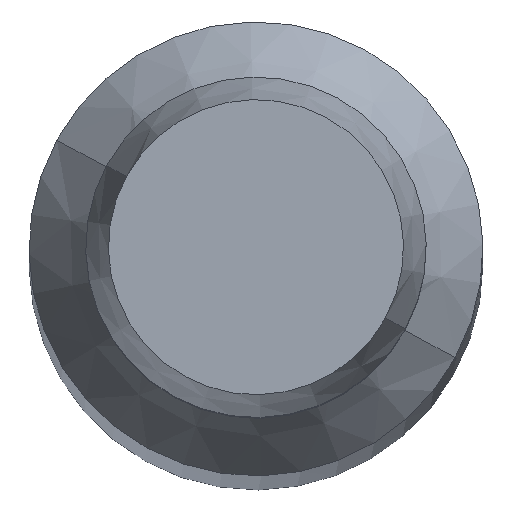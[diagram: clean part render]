
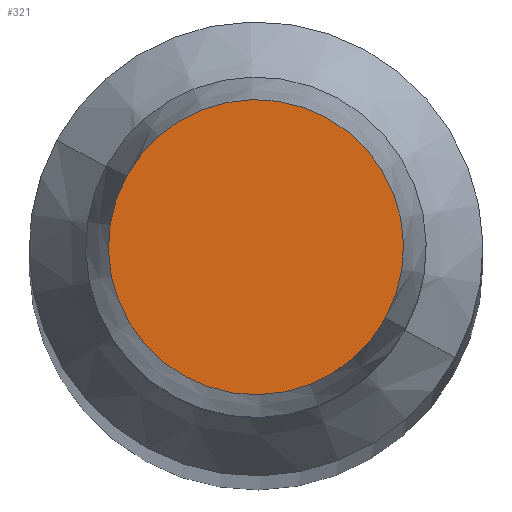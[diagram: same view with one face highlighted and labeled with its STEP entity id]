
A CAD part, top view. The second image highlights one B-rep face of the part: STEP entity #321.
In plain terms, the highlighted planar face has unit normal (0, 0, 1).
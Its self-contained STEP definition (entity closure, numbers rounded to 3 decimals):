
#283=AXIS2_PLACEMENT_3D('Circle Axis2P3D',#281,#282,$) ;
#302=AXIS2_PLACEMENT_3D('Circle Axis2P3D',#300,#301,$) ;
#315=AXIS2_PLACEMENT_3D('Plane Axis2P3D',#312,#313,#314) ;
#278=CARTESIAN_POINT('Vertex',(1.141,-0.623,-6.5)) ;
#281=CARTESIAN_POINT('Axis2P3D Location',(0.,0.,-6.5)) ;
#285=CARTESIAN_POINT('Vertex',(-1.141,0.623,-6.5)) ;
#300=CARTESIAN_POINT('Axis2P3D Location',(0.,0.,-6.5)) ;
#312=CARTESIAN_POINT('Axis2P3D Location',(0.,0.,-6.5)) ;
#282=DIRECTION('Axis2P3D Direction',(0.,0.,-1.)) ;
#301=DIRECTION('Axis2P3D Direction',(0.,0.,-1.)) ;
#313=DIRECTION('Axis2P3D Direction',(0.,0.,-1.)) ;
#314=DIRECTION('Axis2P3D XDirection',(1.,0.,0.)) ;
#318=ORIENTED_EDGE('',*,*,#304,.F.) ;
#319=ORIENTED_EDGE('',*,*,#287,.F.) ;
#321=ADVANCED_FACE('\X2\51E04F554F53\X0\.2',(#320),#316,.F.) ;
#284=CIRCLE('generated circle',#283,1.3) ;
#303=CIRCLE('generated circle',#302,1.3) ;
#287=EDGE_CURVE('',#279,#286,#284,.T.) ;
#304=EDGE_CURVE('',#286,#279,#303,.T.) ;
#317=EDGE_LOOP('',(#318,#319)) ;
#320=FACE_OUTER_BOUND('',#317,.T.) ;
#316=PLANE('Plane',#315) ;
#279=VERTEX_POINT('',#278) ;
#286=VERTEX_POINT('',#285) ;
